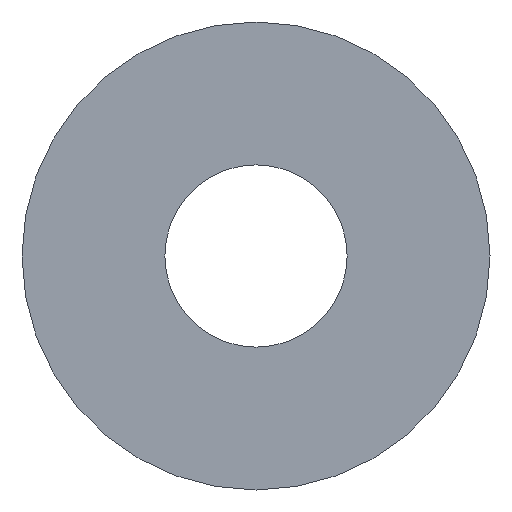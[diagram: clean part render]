
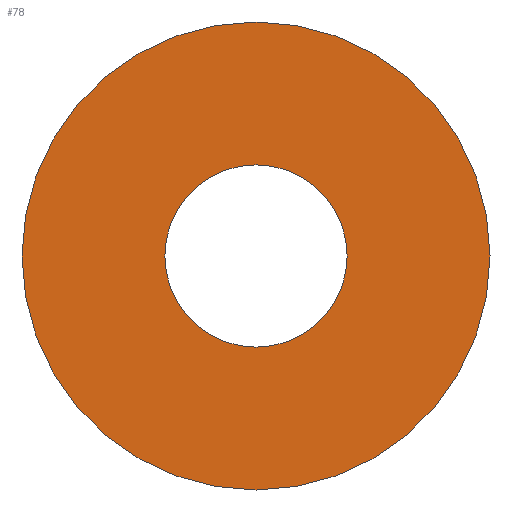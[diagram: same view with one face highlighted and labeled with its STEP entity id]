
A CAD part, front view. The second image highlights one B-rep face of the part: STEP entity #78.
In plain terms, the highlighted planar face has unit normal (0, -1, 0).
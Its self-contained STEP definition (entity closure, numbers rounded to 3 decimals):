
#16=FACE_BOUND('',#32,.T.);
#18=PLANE('',#102);
#25=FACE_OUTER_BOUND('',#31,.T.);
#31=EDGE_LOOP('',(#71));
#32=EDGE_LOOP('',(#72));
#41=CIRCLE('',#97,4.75);
#43=CIRCLE('',#101,1.85);
#46=VERTEX_POINT('',#136);
#48=VERTEX_POINT('',#143);
#53=EDGE_CURVE('',#46,#46,#41,.T.);
#56=EDGE_CURVE('',#48,#48,#43,.T.);
#71=ORIENTED_EDGE('',*,*,#53,.F.);
#72=ORIENTED_EDGE('',*,*,#56,.F.);
#78=ADVANCED_FACE('',(#25,#16),#18,.F.);
#97=AXIS2_PLACEMENT_3D('',#138,#115,#116);
#101=AXIS2_PLACEMENT_3D('',#145,#124,#125);
#102=AXIS2_PLACEMENT_3D('',#146,#126,#127);
#115=DIRECTION('center_axis',(0.,1.,0.));
#116=DIRECTION('ref_axis',(1.,0.,0.));
#124=DIRECTION('center_axis',(0.,-1.,0.));
#125=DIRECTION('ref_axis',(1.,0.,0.));
#126=DIRECTION('center_axis',(0.,1.,0.));
#127=DIRECTION('ref_axis',(1.,0.,0.));
#136=CARTESIAN_POINT('',(-4.75,0.,0.));
#138=CARTESIAN_POINT('Origin',(0.,0.,0.));
#143=CARTESIAN_POINT('',(-1.85,0.,0.));
#145=CARTESIAN_POINT('Origin',(0.,0.,0.));
#146=CARTESIAN_POINT('Origin',(0.,0.,0.));
